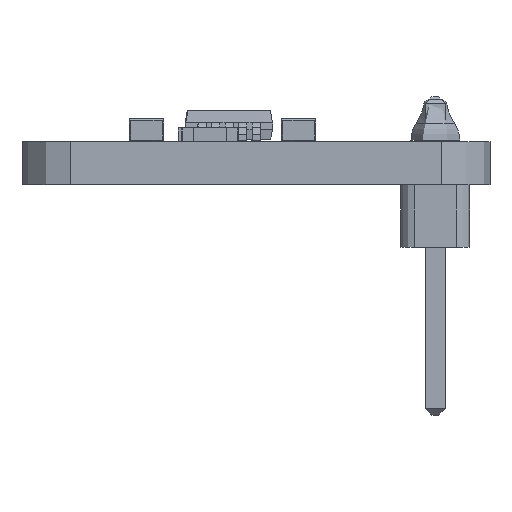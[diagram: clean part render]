
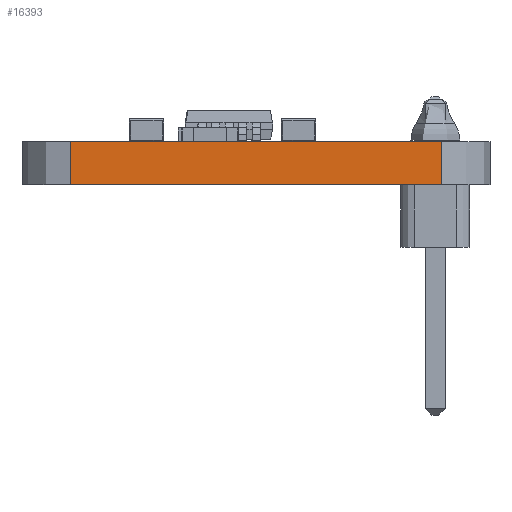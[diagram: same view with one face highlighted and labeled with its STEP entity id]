
A CAD part, left-side view. The second image highlights one B-rep face of the part: STEP entity #16393.
In plain terms, the highlighted planar face has unit normal (-1, 0, 0).
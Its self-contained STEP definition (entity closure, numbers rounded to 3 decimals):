
#1120 = VECTOR ( 'NONE', #36283, 1000. ) ;
#2130 = CARTESIAN_POINT ( 'NONE',  ( -13.97, -8.636, 1.6 ) ) ;
#3827 = PLANE ( 'NONE',  #4113 ) ;
#3990 = CARTESIAN_POINT ( 'NONE',  ( -13.97, -6.858, 0. ) ) ;
#4113 = AXIS2_PLACEMENT_3D ( 'NONE', #21076, #26360, #46795 ) ;
#4328 = VECTOR ( 'NONE', #30457, 1000. ) ;
#4657 = DIRECTION ( 'NONE',  ( 0., 1., 0. ) ) ;
#9900 = EDGE_CURVE ( 'NONE', #44642, #49891, #56966, .T. ) ;
#16237 = CARTESIAN_POINT ( 'NONE',  ( -13.97, 0., 0. ) ) ;
#16393 = ADVANCED_FACE ( 'NONE', ( #49530 ), #3827, .T. ) ;
#21076 = CARTESIAN_POINT ( 'NONE',  ( -13.97, -8.636, 1.6 ) ) ;
#24397 = ORIENTED_EDGE ( 'NONE', *, *, #9900, .F. ) ;
#26360 = DIRECTION ( 'NONE',  ( -1., 0., 0. ) ) ;
#26886 = LINE ( 'NONE', #52613, #1120 ) ;
#27049 = EDGE_CURVE ( 'NONE', #35220, #46141, #27729, .T. ) ;
#27729 = LINE ( 'NONE', #2130, #53242 ) ;
#30457 = DIRECTION ( 'NONE',  ( 0., 0., 1. ) ) ;
#34897 = CARTESIAN_POINT ( 'NONE',  ( -13.97, -6.858, 1.6 ) ) ;
#35220 = VERTEX_POINT ( 'NONE', #34897 ) ;
#36283 = DIRECTION ( 'NONE',  ( 0., 0., 1. ) ) ;
#37547 = EDGE_LOOP ( 'NONE', ( #24397, #40539, #50420, #60285 ) ) ;
#40539 = ORIENTED_EDGE ( 'NONE', *, *, #60569, .T. ) ;
#42806 = CARTESIAN_POINT ( 'NONE',  ( -13.97, 6.858, 1.6 ) ) ;
#44642 = VERTEX_POINT ( 'NONE', #3990 ) ;
#45526 = LINE ( 'NONE', #55852, #4328 ) ;
#46141 = VERTEX_POINT ( 'NONE', #42806 ) ;
#46795 = DIRECTION ( 'NONE',  ( 0., 0., 1. ) ) ;
#47325 = CARTESIAN_POINT ( 'NONE',  ( -13.97, 6.858, 0. ) ) ;
#49530 = FACE_OUTER_BOUND ( 'NONE', #37547, .T. ) ;
#49891 = VERTEX_POINT ( 'NONE', #47325 ) ;
#50420 = ORIENTED_EDGE ( 'NONE', *, *, #27049, .T. ) ;
#52613 = CARTESIAN_POINT ( 'NONE',  ( -13.97, -6.858, 1.6 ) ) ;
#53242 = VECTOR ( 'NONE', #63077, 1000. ) ;
#55852 = CARTESIAN_POINT ( 'NONE',  ( -13.97, 6.858, 1.6 ) ) ;
#56966 = LINE ( 'NONE', #16237, #62297 ) ;
#60285 = ORIENTED_EDGE ( 'NONE', *, *, #61430, .F. ) ;
#60569 = EDGE_CURVE ( 'NONE', #44642, #35220, #26886, .T. ) ;
#61430 = EDGE_CURVE ( 'NONE', #49891, #46141, #45526, .T. ) ;
#62297 = VECTOR ( 'NONE', #4657, 1000. ) ;
#63077 = DIRECTION ( 'NONE',  ( 0., 1., 0. ) ) ;
